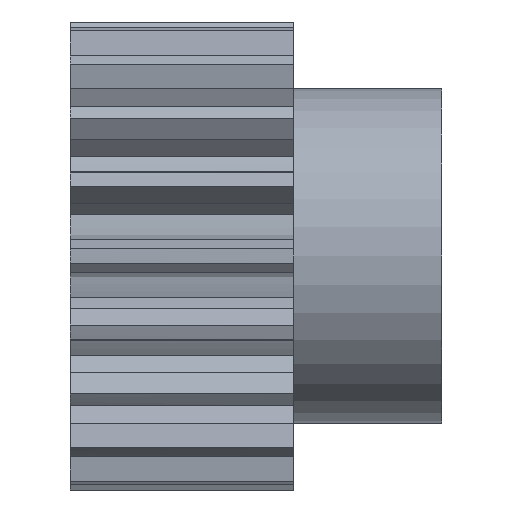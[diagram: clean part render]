
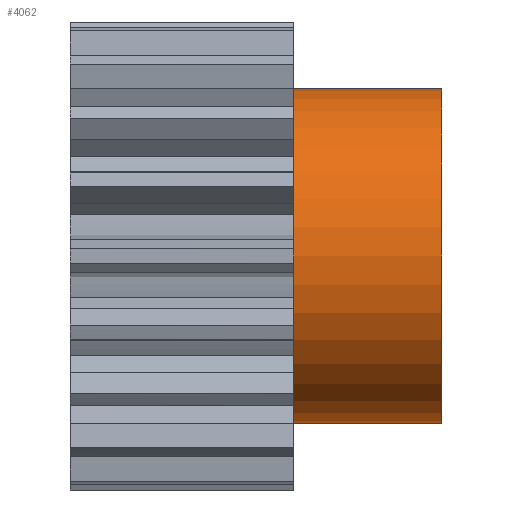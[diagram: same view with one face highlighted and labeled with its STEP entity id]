
A CAD part, front view. The second image highlights one B-rep face of the part: STEP entity #4062.
In plain terms, the highlighted cylindrical face has radius 22.5 mm (diameter 45 mm), a partial arc.
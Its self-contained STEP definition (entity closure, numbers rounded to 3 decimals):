
#9 = ORIENTED_EDGE ( 'NONE', *, *, #3577, .F. ) ;
#15 = ORIENTED_EDGE ( 'NONE', *, *, #3903, .T. ) ;
#18 = EDGE_LOOP ( 'NONE', ( #9, #4052, #4064, #15 ) ) ;
#2346 = CARTESIAN_POINT ( 'NONE',  ( 15., 0., -22.5 ) ) ;
#2373 = CARTESIAN_POINT ( 'NONE',  ( 15., 0., -22.5 ) ) ;
#2374 = LINE ( 'NONE', #2373, #2403 ) ;
#2376 = CARTESIAN_POINT ( 'NONE',  ( 35., 0., -22.5 ) ) ;
#2402 = DIRECTION ( 'NONE',  ( -1., 0., 0. ) ) ;
#2403 = VECTOR ( 'NONE', #2402, 1000. ) ;
#2412 = CARTESIAN_POINT ( 'NONE',  ( 35., 0., 22.5 ) ) ;
#2580 = CARTESIAN_POINT ( 'NONE',  ( 15., 0., 22.5 ) ) ;
#2606 = DIRECTION ( 'NONE',  ( -1., 0., 0. ) ) ;
#2607 = VECTOR ( 'NONE', #2606, 1000. ) ;
#2613 = CARTESIAN_POINT ( 'NONE',  ( 15., 0., 22.5 ) ) ;
#2614 = LINE ( 'NONE', #2613, #2607 ) ;
#2865 = CIRCLE ( 'NONE', #2890, 22.5 ) ;
#2881 = DIRECTION ( 'NONE',  ( 0., 0., 1. ) ) ;
#2882 = DIRECTION ( 'NONE',  ( 1., 0., 0. ) ) ;
#2883 = CARTESIAN_POINT ( 'NONE',  ( 15., 0., 0. ) ) ;
#2890 = AXIS2_PLACEMENT_3D ( 'NONE', #2883, #2882, #2881 ) ;
#2928 = AXIS2_PLACEMENT_3D ( 'NONE', #2994, #2982, #2981 ) ;
#2981 = DIRECTION ( 'NONE',  ( 0., 0., 1. ) ) ;
#2982 = DIRECTION ( 'NONE',  ( -1., 0., 0. ) ) ;
#2986 = CIRCLE ( 'NONE', #2928, 22.5 ) ;
#2994 = CARTESIAN_POINT ( 'NONE',  ( 35., 0., 0. ) ) ;
#3117 = FACE_OUTER_BOUND ( 'NONE', #18, .T. ) ;
#3133 = DIRECTION ( 'NONE',  ( 0., 0., 1. ) ) ;
#3134 = DIRECTION ( 'NONE',  ( -1., 0., 0. ) ) ;
#3137 = CYLINDRICAL_SURFACE ( 'NONE', #3147, 22.5 ) ;
#3146 = CARTESIAN_POINT ( 'NONE',  ( 15., 0., 0. ) ) ;
#3147 = AXIS2_PLACEMENT_3D ( 'NONE', #3146, #3134, #3133 ) ;
#3560 = VERTEX_POINT ( 'NONE', #2346 ) ;
#3566 = VERTEX_POINT ( 'NONE', #2376 ) ;
#3573 = VERTEX_POINT ( 'NONE', #2412 ) ;
#3577 = EDGE_CURVE ( 'NONE', #3566, #3560, #2374, .T. ) ;
#3677 = VERTEX_POINT ( 'NONE', #2580 ) ;
#3698 = EDGE_CURVE ( 'NONE', #3573, #3677, #2614, .T. ) ;
#3903 = EDGE_CURVE ( 'NONE', #3677, #3560, #2865, .T. ) ;
#3964 = EDGE_CURVE ( 'NONE', #3566, #3573, #2986, .T. ) ;
#4052 = ORIENTED_EDGE ( 'NONE', *, *, #3964, .T. ) ;
#4062 = ADVANCED_FACE ( 'NONE', ( #3117 ), #3137, .T. ) ;
#4064 = ORIENTED_EDGE ( 'NONE', *, *, #3698, .T. ) ;
